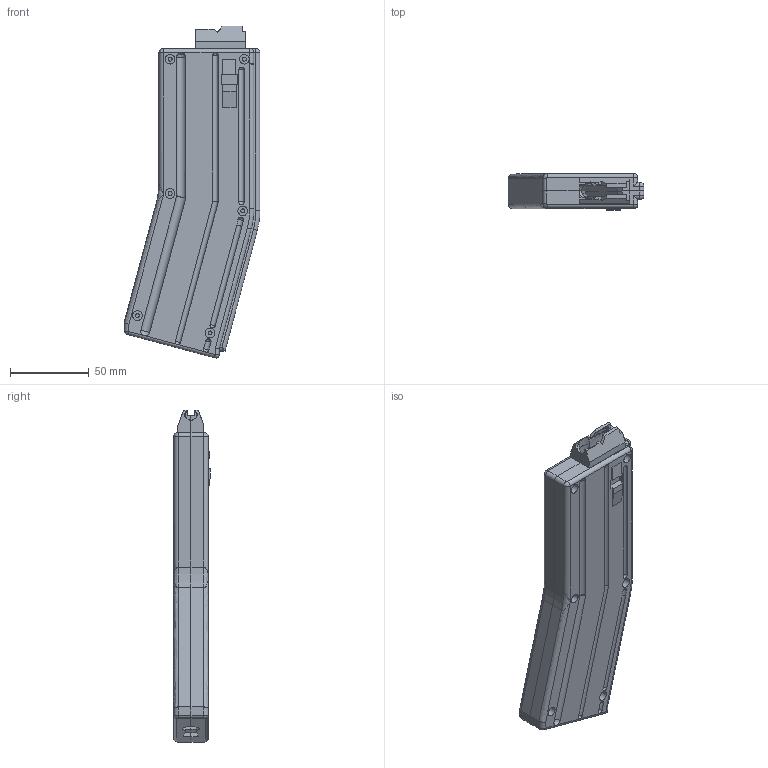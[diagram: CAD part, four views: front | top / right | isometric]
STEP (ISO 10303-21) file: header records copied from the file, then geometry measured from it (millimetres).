
FILE_DESCRIPTION(/* description */ (''),/* implementation_level */ '2;1');
FILE_NAME(/* name */ '//vboxsvr/bigsql-win-testing/CAD/DD2-GIT/freeman1337/cmmg-22lr-mag-25round/STEP/cmmg-22lr-mag-25round-body-split.step',/* time_stamp */ '2021-06-10T14:13:31-07:00',/* author */ (''),/* organization */ (''),/* preprocessor_version */ 'ST-DEVELOPER v18.1',/* originating_system */ 'Autodesk Translation Framework v10.9.0.1377',/* authorisation */ '');
FILE_SCHEMA (('AUTOMOTIVE_DESIGN { 1 0 10303 214 3 1 1 }'));
Length unit declared in the file: millimetre
Products named in the file (3): cmmg-mag-new-collab v3-split; BodyR; BodyL
Assembly tree (2 placements, depth 2):
  cmmg-mag-new-collab v3-split
    BodyR
    BodyL
Bounding box: 86 x 23.32 x 210.15 mm (x, y, z)
Volume: 214293.8 mm3; surface area: 68500.8 mm2
Topology: 2 solids, 3 shells, 385 faces, 991 edges, 616 vertices
Faces by surface type: plane 156, bspline 119, cylinder 96, torus 5, cone 5, sphere 4
Full cylindrical faces by diameter (mm): 2.5 x12, 6.15 x6
Entity records: 16615 total; most frequent: CARTESIAN_POINT 7859, ORIENTED_EDGE 1958, DIRECTION 1566, EDGE_CURVE 979, VERTEX_POINT 616, AXIS2_PLACEMENT_3D 567, LINE 432, VECTOR 432
